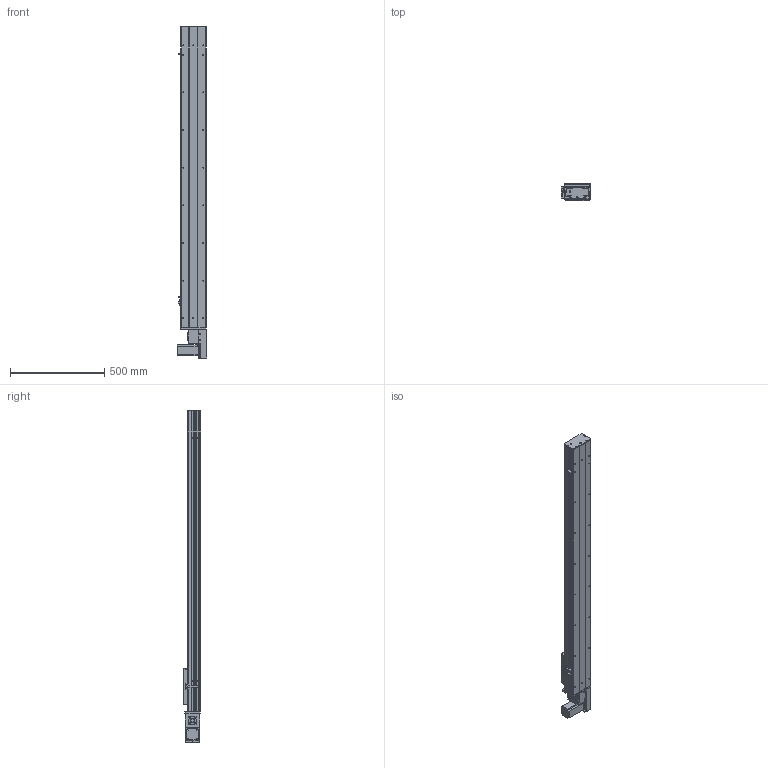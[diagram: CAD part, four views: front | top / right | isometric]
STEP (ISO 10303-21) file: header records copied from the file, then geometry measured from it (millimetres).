
FILE_DESCRIPTION (( 'STEP AP203' ), '1' );
FILE_NAME ('Y135CB-D90-S1300-BL-P400W.STEP', '2020-02-17T09:12:51', ( '微软用户' ), ( '微软中国' ), 'SwSTEP 2.0', 'SolidWorks 2017', '' );
FILE_SCHEMA (( 'CONFIG_CONTROL_DESIGN' ));
Length unit declared in the file: millimetre
Products named in the file (18): Y俋欶BR----; Y135CB-D90-S1300-BL-P400W; 0B-埴倛裔啣; 5CB --掛极耜裔啣-; 0B-源倛裔啣; C-詩湍揤踡え-陔; 0B-萇儂楊擘啣; Y135CB-耜裔; 135CB--詩湍-CE; san松下电机400不带刹车----; 135CB---遴掛极.-; Y100-135俋离換覜ん--; 35CB---喘謫眊楊擘啣; Y135C-陔俋离換覜結え-; Y10B--々湍喘謫眊--666; 5C--俋欶; Y10B-耜蚾蟀諉啣----; C-雄赽釱--
Assembly tree (21 placements, depth 2):
  Y135CB-D90-S1300-BL-P400W
    Y135CB-耜裔
    135CB---遴掛极.-
    35CB---喘謫眊楊擘啣
    Y10B--々湍喘謫眊--666
    Y10B-耜蚾蟀諉啣----
    Y俋欶BR----
    0B-埴倛裔啣
    0B-源倛裔啣
    0B-萇儂楊擘啣
    san松下电机400不带刹车----
    5CB --掛极耜裔啣-  x2
    C-詩湍揤踡え-陔  x2
    135CB--詩湍-CE
    Y100-135俋离換覜ん--  x3
    Y135C-陔俋离換覜結え-
    5C--俋欶
    C-雄赽釱--
Bounding box: 157.5 x 91 x 1764.5 mm (x, y, z)
Volume: 5166261.8 mm3; surface area: 2030134 mm2
Topology: 21 solids, 21 shells, 953 faces, 2563 edges, 1698 vertices
Faces by surface type: cylinder 479, plane 458, cone 16
Entity records: 29745 total; most frequent: DIRECTION 4939, CARTESIAN_POINT 4900, ORIENTED_EDGE 4602, EDGE_CURVE 2301, AXIS2_PLACEMENT_3D 1801, VERTEX_POINT 1526, VECTOR 1337, LINE 1337
